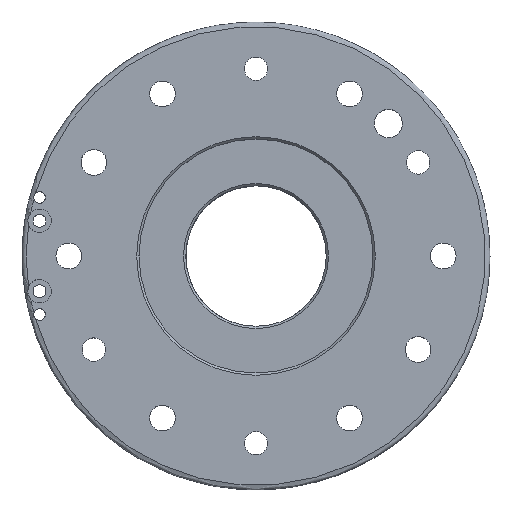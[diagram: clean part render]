
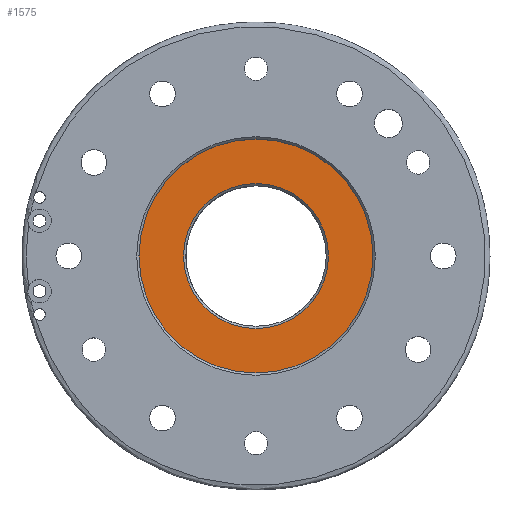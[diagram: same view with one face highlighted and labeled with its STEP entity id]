
A CAD part, top view. The second image highlights one B-rep face of the part: STEP entity #1575.
In plain terms, the highlighted planar face has unit normal (0, 0, 1).
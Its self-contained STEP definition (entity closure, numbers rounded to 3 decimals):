
#66=FACE_BOUND('',#271,.T.);
#84=PLANE('',#1788);
#155=FACE_OUTER_BOUND('',#270,.T.);
#270=EDGE_LOOP('',(#1309,#1310));
#271=EDGE_LOOP('',(#1311));
#540=CIRCLE('',#1775,50.);
#541=CIRCLE('',#1776,50.);
#543=CIRCLE('',#1779,31.);
#696=VERTEX_POINT('',#2739);
#697=VERTEX_POINT('',#2741);
#700=VERTEX_POINT('',#2748);
#900=EDGE_CURVE('',#696,#697,#540,.T.);
#901=EDGE_CURVE('',#697,#696,#541,.T.);
#904=EDGE_CURVE('',#700,#700,#543,.T.);
#1309=ORIENTED_EDGE('',*,*,#901,.F.);
#1310=ORIENTED_EDGE('',*,*,#900,.F.);
#1311=ORIENTED_EDGE('',*,*,#904,.F.);
#1575=ADVANCED_FACE('',(#155,#66),#84,.T.);
#1775=AXIS2_PLACEMENT_3D('',#2742,#2186,#2187);
#1776=AXIS2_PLACEMENT_3D('',#2743,#2188,#2189);
#1779=AXIS2_PLACEMENT_3D('',#2750,#2195,#2196);
#1788=AXIS2_PLACEMENT_3D('',#2869,#2218,#2219);
#2186=DIRECTION('center_axis',(0.,0.,
-1.));
#2187=DIRECTION('ref_axis',(0.,-1.,0.));
#2188=DIRECTION('center_axis',(0.,0.,
-1.));
#2189=DIRECTION('ref_axis',(0.,-1.,0.));
#2195=DIRECTION('center_axis',(0.,0.,
1.));
#2196=DIRECTION('ref_axis',(0.,1.,0.));
#2218=DIRECTION('center_axis',(0.,0.,
1.));
#2219=DIRECTION('ref_axis',(-1.,0.,0.));
#2739=CARTESIAN_POINT('',(0.,50.,199.438));
#2741=CARTESIAN_POINT('',(0.,-50.,199.438));
#2742=CARTESIAN_POINT('Origin',(0.,0.,
199.438));
#2743=CARTESIAN_POINT('Origin',(0.,0.,
199.438));
#2748=CARTESIAN_POINT('',(0.,-31.,199.438));
#2750=CARTESIAN_POINT('Origin',(0.,0.,
199.438));
#2869=CARTESIAN_POINT('Origin',(0.,-40.,
199.438));
